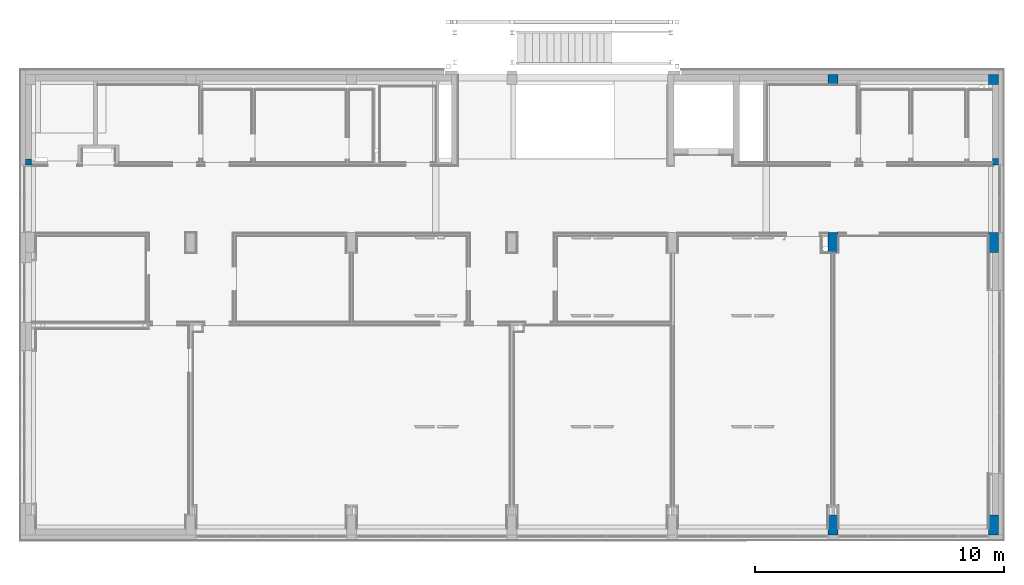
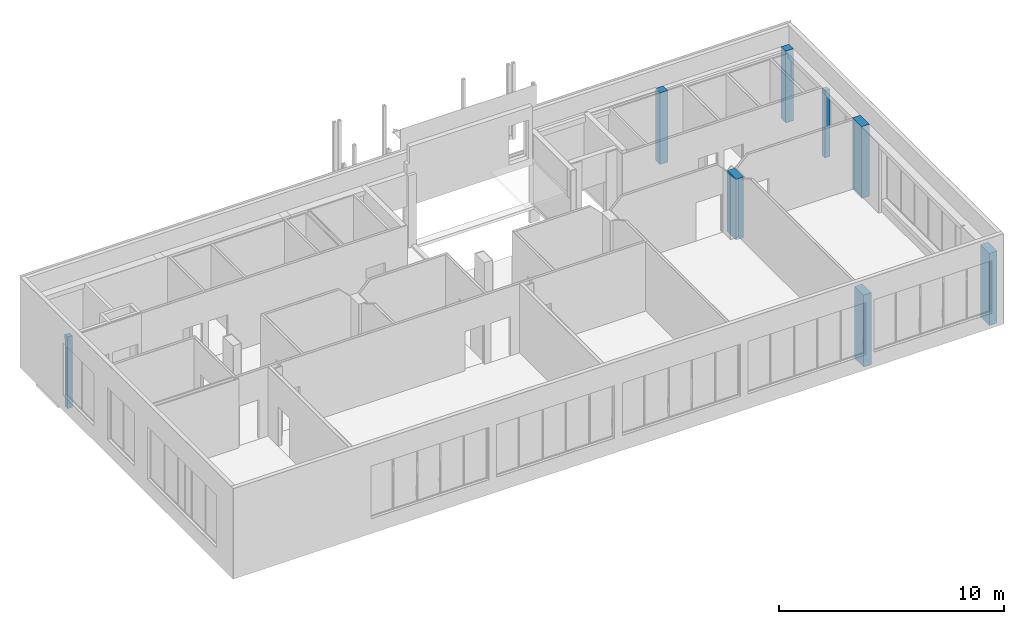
# One storey, part 5 of 29: 8 columns.
"""IFC2X3 building model written with IfcOpenShell, lengths in centimetres."""

import ifcopenshell
import ifcopenshell.guid

model = None  # the IFC model being written
_history = None  # IfcOwnerHistory: only IFC2X3 demands one
_inside = {}  # id of a spatial element -> (the spatial element, [elements in it])
_under = {}  # id of a project, library or spatial element -> (it, [spatial elements below it])
_declared = {}  # id of a project -> (the project, [libraries it declares])
_typed = {}  # id of a type object -> (the type object, [elements of that type])
_made_of = {}  # id of a material, layer set ... -> (it, [elements and type objects made of it])


def new_model(schema):
    """Start an empty IFC model of exactly this schema.

    Asked for "IFC4X3", IfcOpenShell would pick the latest addendum, in which some entities
    have other attributes; the version numbers below select the first issue.
    IFC2X3 requires an IfcOwnerHistory on every rooted entity: one is made here for all.
    """
    global model, _history
    if schema == "IFC4X3":
        model = ifcopenshell.file(schema_version=(4, 3, 0, 0))
    else:
        model = ifcopenshell.file(schema=schema)
    _inside.clear()
    _under.clear()
    _declared.clear()
    _typed.clear()
    _made_of.clear()
    _history = None
    if model.schema == "IFC2X3":
        org = make("IfcOrganization", Name="unknown")
        user = make(
            "IfcPersonAndOrganization",
            ThePerson=make("IfcPerson", FamilyName="unknown"),
            TheOrganization=org,
        )
        app = make(
            "IfcApplication",
            ApplicationDeveloper=org,
            Version="unknown",
            ApplicationFullName="unknown",
            ApplicationIdentifier="unknown",
        )
        _history = make(
            "IfcOwnerHistory",
            OwningUser=user,
            OwningApplication=app,
            ChangeAction="ADDED",
            CreationDate=0,
        )
    return model


def make(cls, **values):
    """One entity of the class cls with the attributes given. An attribute that is None is left unset."""
    return model.create_entity(
        cls, **{name: value for name, value in values.items() if value is not None}
    )


def entity(cls, *values):
    """Any entity or typed value of the class cls, its attributes in the order of the schema. None: left unset."""
    e = model.create_entity(cls)
    for i, value in enumerate(values):
        if value is not None:
            e[i] = value
    return e


def rooted(cls, **values):
    """An entity with a GlobalId (a new one), such as an element, a storey or a relation."""
    return make(cls, GlobalId=ifcopenshell.guid.new(), OwnerHistory=_history, **values)


def si_unit(unit_type, name, prefix=None):
    """IfcSIUnit, for example si_unit("LENGTHUNIT", "METRE", prefix="MILLI")."""
    return make("IfcSIUnit", UnitType=unit_type, Prefix=prefix, Name=name)


def converted_unit(unit_type, name, factor, base, dimensions=None, offset=None):
    """IfcConversionBasedUnit, such as the inch: factor (a typed value) times the base unit."""
    return make(
        "IfcConversionBasedUnit"
        if offset is None
        else "IfcConversionBasedUnitWithOffset",
        ConversionOffset=offset,
        Dimensions=None
        if dimensions is None
        else entity("IfcDimensionalExponents", *dimensions),
        UnitType=unit_type,
        Name=name,
        ConversionFactor=make(
            "IfcMeasureWithUnit", ValueComponent=factor, UnitComponent=base
        ),
    )


def derived_unit(unit_type, elements):
    """IfcDerivedUnit: a product of units, each with its exponent."""
    return make(
        "IfcDerivedUnit",
        Elements=[
            make("IfcDerivedUnitElement", Unit=unit, Exponent=power)
            for unit, power in elements
        ],
        UnitType=unit_type,
    )


def assignment(units):
    """IfcUnitAssignment: the units of a project."""
    return None if units is None else make("IfcUnitAssignment", Units=units)


def point(xyz):
    """IfcCartesianPoint."""
    return None if xyz is None else make("IfcCartesianPoint", Coordinates=xyz)


def direction(xyz):
    """IfcDirection."""
    return None if xyz is None else make("IfcDirection", DirectionRatios=xyz)


def frame(location, z_axis=None, x_axis=None):
    """IfcAxis2Placement3D, a coordinate frame: its origin and axes. An axis left out is left unset."""
    return make(
        "IfcAxis2Placement3D",
        Location=point(location),
        Axis=direction(z_axis),
        RefDirection=direction(x_axis),
    )


def frame_2d(location, x_axis=None):
    """IfcAxis2Placement2D, a coordinate frame in the plane: its origin and x axis."""
    return make(
        "IfcAxis2Placement2D", Location=point(location), RefDirection=direction(x_axis)
    )


def origin():
    """The frame at (0, 0, 0) with its axes left unset."""
    return frame((0.0, 0.0, 0.0))


def origin_2d_with_axis():
    """The frame at (0, 0) in the plane with the x axis (1, 0) written out."""
    return frame_2d((0.0, 0.0), x_axis=(1.0, 0.0))


def place(relative_to, where):
    """IfcLocalPlacement: puts the frame where relative to a parent placement (None: the world)."""
    return make(
        "IfcLocalPlacement", PlacementRelTo=relative_to, RelativePlacement=where
    )


def context(
    kind, dimensions, precision=None, world=None, true_north=None, identifier=None
):
    """IfcGeometricRepresentationContext, for example the 3D "Model" context."""
    return make(
        "IfcGeometricRepresentationContext",
        ContextIdentifier=identifier,
        ContextType=kind,
        CoordinateSpaceDimension=dimensions,
        Precision=precision,
        WorldCoordinateSystem=world,
        TrueNorth=true_north,
    )


def subcontext(parent, identifier, kind, view, scale=None):
    """IfcGeometricRepresentationSubContext, for example "Body" below "Model"."""
    return make(
        "IfcGeometricRepresentationSubContext",
        ContextIdentifier=identifier,
        ContextType=kind,
        ParentContext=parent,
        TargetScale=scale,
        TargetView=view,
    )


def project(units=None, contexts=None):
    """IfcProject with its units and contexts."""
    return rooted(
        "IfcProject",
        Name="project",
        RepresentationContexts=contexts,
        UnitsInContext=assignment(units),
    )


def spatial(cls, under=None, at=None, **own):
    """A site, building, storey or space (cls), placed at a placement, below another one or the project."""
    s = rooted(cls, ObjectPlacement=at, **own)
    if under is not None:
        _under.setdefault(under.id(), (under, []))[1].append(s)
    return s


def profile(cls, at=None, kind="AREA", **sizes):
    """A parametric profile (cls). Its sizes go by their IFC names, for example OverallWidth=200.0."""
    return make(cls, ProfileType=kind, Position=at, **sizes)


def rectangle(**sizes):
    """IfcRectangleProfileDef."""
    return profile("IfcRectangleProfileDef", **sizes)


def extrude(swept, where, along, depth):
    """IfcExtrudedAreaSolid: the profile swept, set in the frame where, extruded along a direction by depth."""
    return make(
        "IfcExtrudedAreaSolid",
        SweptArea=swept,
        Position=where,
        ExtrudedDirection=direction(along),
        Depth=depth,
    )


def faces_of(points, faces, orient=None, outer=None):
    """IfcFace entities. A face is a list of loops; a loop is a list of indices into points, from 0.

    orient and outer hold one flag for each loop. By default every Orientation is true, the
    first loop of a face is its IfcFaceOuterBound and the others are IfcFaceBound.
    """
    made = []
    for i, loops in enumerate(faces):
        bounds = []
        for j, loop in enumerate(loops):
            is_outer = j == 0 if outer is None else outer[i][j]
            bounds.append(
                make(
                    "IfcFaceOuterBound" if is_outer else "IfcFaceBound",
                    Bound=make("IfcPolyLoop", Polygon=[points[k] for k in loop]),
                    Orientation=True if orient is None else orient[i][j],
                )
            )
        made.append(make("IfcFace", Bounds=bounds))
    return made


def faceted_brep(points, faces, orient=None, outer=None, voids=None):
    """IfcFacetedBrep: a solid bounded by flat faces; with voids (closed shells), ...WithVoids."""
    shared = [point(p) for p in points]
    hull = make("IfcClosedShell", CfsFaces=faces_of(shared, faces, orient, outer))
    if voids is None:
        return make("IfcFacetedBrep", Outer=hull)
    return make(
        "IfcFacetedBrepWithVoids",
        Outer=hull,
        Voids=[
            make(cls, CfsFaces=faces_of(shared, fs, o, b)) for cls, fs, o, b in voids
        ],
    )


def shape(context_of_items, identifier, shape_type, items):
    """IfcShapeRepresentation: the items that make up one representation, for example the "Body"."""
    return make(
        "IfcShapeRepresentation",
        ContextOfItems=context_of_items,
        RepresentationIdentifier=identifier,
        RepresentationType=shape_type,
        Items=items,
    )


def source(mapping_origin, context_of_items, identifier, shape_type, items):
    """IfcRepresentationMap: a shape defined once, which mapped items show again and again."""
    return make(
        "IfcRepresentationMap",
        MappingOrigin=mapping_origin,
        MappedRepresentation=shape(context_of_items, identifier, shape_type, items),
    )


def transform(
    local_origin,
    x_axis=None,
    y_axis=None,
    z_axis=None,
    scale=None,
    scale2=None,
    scale3=None,
    uniform=True,
):
    """IfcCartesianTransformationOperator3D, or its non-uniform kind. x_axis, y_axis, z_axis: its Axis1, 2, 3."""
    if uniform:
        return make(
            "IfcCartesianTransformationOperator3D",
            Axis1=direction(x_axis),
            Axis2=direction(y_axis),
            LocalOrigin=point(local_origin),
            Scale=scale,
            Axis3=direction(z_axis),
        )
    return make(
        "IfcCartesianTransformationOperator3DnonUniform",
        Axis1=direction(x_axis),
        Axis2=direction(y_axis),
        LocalOrigin=point(local_origin),
        Scale=scale,
        Axis3=direction(z_axis),
        Scale2=scale2,
        Scale3=scale3,
    )


def mapped(mapping_source, mapping_target):
    """IfcMappedItem: shows the shape of a source again, moved by a transform."""
    return make(
        "IfcMappedItem", MappingSource=mapping_source, MappingTarget=mapping_target
    )


def material(Name=None, Category=None):
    """IfcMaterial."""
    return make("IfcMaterial", Name=Name, Category=Category)


def made_of(thing, what):
    """Note that an element or type object is made of a material, layer set ...; save() writes the relation."""
    if what is not None:
        _made_of.setdefault(what.id(), (what, []))[1].append(thing)
    return thing


def type_object(cls, material=None, **own):
    """A type object (cls), such as IfcWallType, which elements share."""
    return made_of(rooted(cls, **own), material)


def type_shapes(of_type, sources):
    """Give a type object the sources (RepresentationMaps) that its elements show as mapped items."""
    of_type.RepresentationMaps = sources


def element(
    cls,
    number,
    at=None,
    inside=None,
    cuts=None,
    type_object=None,
    material=None,
    context=None,
    identifier="Body",
    shape_type=None,
    held_by="IfcProductDefinitionShape",
    body=None,
    shapes=None,
    **own,
):
    """One element of the class cls, such as IfcWall. Its Tag is "e" and its number.

    at: its placement. inside: the storey or other place that contains it. cuts: it is an
    opening in that element (IfcRelVoidsElement). A single representation is given by context,
    identifier, shape_type and body (its items); several are given by shapes. held_by: the class
    of the entity that holds the representations. save() writes the other relations.
    """
    e = rooted(cls, Tag="e%d" % number, ObjectPlacement=at, **own)
    if body is not None:
        shapes = [shape(context, identifier, shape_type, body)]
    if shapes is not None:
        e.Representation = make(held_by, Representations=shapes)
    if inside is not None:
        _inside.setdefault(inside.id(), (inside, []))[1].append(e)
    if cuts is not None:
        rooted(
            "IfcRelVoidsElement", RelatingBuildingElement=cuts, RelatedOpeningElement=e
        )
    if type_object is not None:
        _typed.setdefault(type_object.id(), (type_object, []))[1].append(e)
    return made_of(e, material)


def aggregate(whole, parts):
    """IfcRelAggregates: a whole, such as a stair, and the parts it consists of."""
    return rooted("IfcRelAggregates", RelatingObject=whole, RelatedObjects=parts)


def save(model, path):
    """Write the relations noted so far, then the file.

    IfcRelAggregates (storeys below a building ...), IfcRelContainedInSpatialStructure (elements
    in a storey), IfcRelDefinesByType, IfcRelAssociatesMaterial and IfcRelDeclares: one each for
    every whole, place, type object, material and project.
    """
    for whole, parts in _under.values():
        aggregate(whole, parts)
    for where, things in _inside.values():
        rooted(
            "IfcRelContainedInSpatialStructure",
            RelatedElements=things,
            RelatingStructure=where,
        )
    for kind, things in _typed.values():
        rooted("IfcRelDefinesByType", RelatedObjects=things, RelatingType=kind)
    for what, things in _made_of.values():
        rooted("IfcRelAssociatesMaterial", RelatedObjects=things, RelatingMaterial=what)
    for by, libraries in _declared.values():
        rooted("IfcRelDeclares", RelatingContext=by, RelatedDefinitions=libraries)
    model.write(path)


model = new_model("IFC2X3")

# Units and contexts
model_context = context("Model", 3, precision=0.001, world=origin(), true_north=direction((6.12303176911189e-17, 1.0)))
body_context = subcontext(model_context, "Body", "Model", "MODEL_VIEW")
ifc_project = project(units=[si_unit("LENGTHUNIT", "METRE", prefix="CENTI"), si_unit("AREAUNIT", "SQUARE_METRE"), si_unit("VOLUMEUNIT", "CUBIC_METRE"), converted_unit("PLANEANGLEUNIT", "DEGREE", entity("IfcRatioMeasure", 0.0174532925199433), si_unit("PLANEANGLEUNIT", "RADIAN"), dimensions=[0, 0, 0, 0, 0, 0, 0]), si_unit("MASSUNIT", "GRAM", prefix="KILO"), derived_unit("MASSDENSITYUNIT", [(si_unit("MASSUNIT", "GRAM", prefix="KILO"), 1), (si_unit("LENGTHUNIT", "METRE"), -3)]), derived_unit("MOMENTOFINERTIAUNIT", [(si_unit("LENGTHUNIT", "METRE"), 4)]), si_unit("TIMEUNIT", "SECOND"), si_unit("FREQUENCYUNIT", "HERTZ"), si_unit("THERMODYNAMICTEMPERATUREUNIT", "DEGREE_CELSIUS"), derived_unit("THERMALTRANSMITTANCEUNIT", [(si_unit("MASSUNIT", "GRAM", prefix="KILO"), 1), (si_unit("THERMODYNAMICTEMPERATUREUNIT", "KELVIN"), -1), (si_unit("TIMEUNIT", "SECOND"), -3)]), derived_unit("VOLUMETRICFLOWRATEUNIT", [(si_unit("LENGTHUNIT", "METRE"), 3), (si_unit("TIMEUNIT", "SECOND"), -1)]), si_unit("ELECTRICCURRENTUNIT", "AMPERE"), si_unit("ELECTRICVOLTAGEUNIT", "VOLT"), si_unit("POWERUNIT", "WATT"), si_unit("FORCEUNIT", "NEWTON", prefix="KILO"), si_unit("ILLUMINANCEUNIT", "LUX"), si_unit("LUMINOUSFLUXUNIT", "LUMEN"), si_unit("LUMINOUSINTENSITYUNIT", "CANDELA"), derived_unit("USERDEFINED", [(si_unit("MASSUNIT", "GRAM", prefix="KILO"), -1), (si_unit("LENGTHUNIT", "METRE"), -2), (si_unit("TIMEUNIT", "SECOND"), 3), (si_unit("LUMINOUSFLUXUNIT", "LUMEN"), 1)]), derived_unit("LINEARVELOCITYUNIT", [(si_unit("LENGTHUNIT", "METRE"), 1), (si_unit("TIMEUNIT", "SECOND"), -1)]), si_unit("PRESSUREUNIT", "PASCAL"), derived_unit("USERDEFINED", [(si_unit("LENGTHUNIT", "METRE"), -2), (si_unit("MASSUNIT", "GRAM", prefix="KILO"), 1), (si_unit("TIMEUNIT", "SECOND"), -2)]), derived_unit("LINEARFORCEUNIT", [(si_unit("MASSUNIT", "GRAM", prefix="KILO"), 1), (si_unit("LENGTHUNIT", "METRE"), 1), (si_unit("TIMEUNIT", "SECOND"), -2), (si_unit("LENGTHUNIT", "METRE"), -1)]), derived_unit("PLANARFORCEUNIT", [(si_unit("MASSUNIT", "GRAM", prefix="KILO"), 1), (si_unit("LENGTHUNIT", "METRE"), 1), (si_unit("TIMEUNIT", "SECOND"), -2), (si_unit("LENGTHUNIT", "METRE"), -2)])], contexts=[model_context])

# Site, building, storey
site_placement = place(None, origin())
site = spatial("IfcSite", under=ifc_project, at=site_placement, Name="Default", CompositionType="ELEMENT")
building_placement = place(site_placement, origin())
building = spatial("IfcBuilding", under=site, at=building_placement, CompositionType="ELEMENT")
storey_placement = place(building_placement, frame((0.0, 0.0, 545.0)))
storey = spatial("IfcBuildingStorey", under=building, at=storey_placement, Name="Poziom 1K +5,45", CompositionType="ELEMENT", Elevation=544.999999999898)

# Columns
ifc_material = material(Name="_Beton, C25/30")
column_type_1 = type_object("IfcColumnType", Name="Beton-słup prostokątny:Słup 40 x 80 cm", PredefinedType="COLUMN", material=ifc_material)
shared_shape_1 = source(origin(), body_context, "Body", "SweptSolid", [
    extrude(rectangle(XDim=80.0, YDim=40.0, at=origin_2d_with_axis()), frame((310.734890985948, 1430.12745208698, 545.0), z_axis=(0.0, 0.0, 1.0), x_axis=(0.0, -1.0, 0.0)), (0.0, 0.0, 1.0), 330.000000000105),
])
type_shapes(column_type_1, [shared_shape_1])
column_1_placement = place(storey_placement, frame((0.0, 0.0, -545.0)))
element("IfcColumn", 1, at=column_1_placement, inside=storey, type_object=column_type_1, Name="Beton-słup prostokątny:Słup 40 x 80 cm", ObjectType="Beton-słup prostokątny:Słup 40 x 80 cm", context=body_context, shape_type="MappedRepresentation", body=[
    mapped(shared_shape_1, transform((0.0, 0.0, 0.0), scale=1.0)),
])
column_type_2 = type_object("IfcColumnType", Name="Beton-słup prostokątny:Słup 40 x 80 cm", PredefinedType="COLUMN", material=ifc_material)
shared_shape_2 = source(origin(), body_context, "Body", "SweptSolid", [
    extrude(rectangle(XDim=80.0, YDim=40.0, at=origin_2d_with_axis()), frame((955.734891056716, 1430.12745208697, 545.0), z_axis=(0.0, 0.0, 1.0), x_axis=(0.0, -1.0, 0.0)), (0.0, 0.0, 1.0), 390.000000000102),
])
type_shapes(column_type_2, [shared_shape_2])
column_2_placement = place(storey_placement, frame((0.0, 0.0, -545.0)))
element("IfcColumn", 2, at=column_2_placement, inside=storey, type_object=column_type_2, Name="Beton-słup prostokątny:Słup 40 x 80 cm", ObjectType="Beton-słup prostokątny:Słup 40 x 80 cm", context=body_context, shape_type="MappedRepresentation", body=[
    mapped(shared_shape_2, transform((0.0, 0.0, 0.0), scale=1.0)),
])
column_type_3 = type_object("IfcColumnType", Name="Beton-słup prostokątny:Słup żelbetowy 40x40cm", PredefinedType="COLUMN", material=ifc_material)
shared_shape_3 = source(origin(), body_context, "Body", "SweptSolid", [
    extrude(rectangle(XDim=40.0, YDim=40.0, at=origin_2d_with_axis()), frame((310.734891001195, 2085.1274520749, 545.0), z_axis=(0.0, 0.0, 1.0), x_axis=(0.0, -1.0, 0.0)), (0.0, 0.0, 1.0), 390.000000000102),
])
type_shapes(column_type_3, [shared_shape_3])
column_3_placement = place(storey_placement, frame((0.0, 0.0, -545.0)))
element("IfcColumn", 3, at=column_3_placement, inside=storey, type_object=column_type_3, Name="Beton-słup prostokątny:Słup żelbetowy 40x40cm", ObjectType="Beton-słup prostokątny:Słup żelbetowy 40x40cm", context=body_context, shape_type="MappedRepresentation", body=[
    mapped(shared_shape_3, transform((0.0, 0.0, 0.0), scale=1.0)),
])
column_type_4 = type_object("IfcColumnType", Name="Beton-słup prostokątny:Słup żelbetowy 40x40cm", PredefinedType="COLUMN", material=ifc_material)
shared_shape_4 = source(origin(), body_context, "Body", "SweptSolid", [
    extrude(rectangle(XDim=40.0, YDim=40.0, at=frame_2d((2.16715534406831e-13, 0.0), x_axis=(1.0, 0.0))), frame((955.734894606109, 2085.1274520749, 545.0), z_axis=(0.0, 0.0, 1.0), x_axis=(0.0, -1.0, 0.0)), (0.0, 0.0, 1.0), 390.000000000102),
])
type_shapes(column_type_4, [shared_shape_4])
column_4_placement = place(storey_placement, frame((0.0, 0.0, -545.0)))
element("IfcColumn", 4, at=column_4_placement, inside=storey, type_object=column_type_4, Name="Beton-słup prostokątny:Słup żelbetowy 40x40cm", ObjectType="Beton-słup prostokątny:Słup żelbetowy 40x40cm", context=body_context, shape_type="MappedRepresentation", body=[
    mapped(shared_shape_4, transform((0.0, 0.0, 0.0), scale=1.0)),
])
column_type_5 = type_object("IfcColumnType", Name="Beton-słup prostokątny:Słup 40 x 80 cm", PredefinedType="COLUMN", material=ifc_material)
shared_shape_5 = source(origin(), body_context, "Body", "SweptSolid", [
    extrude(rectangle(XDim=80.0, YDim=40.0, at=origin_2d_with_axis()), frame((955.734891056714, 295.12765760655, 545.0), z_axis=(0.0, 0.0, 1.0), x_axis=(0.0, -1.0, 0.0)), (0.0, 0.0, 1.0), 390.000000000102),
])
type_shapes(column_type_5, [shared_shape_5])
column_5_placement = place(storey_placement, frame((0.0, 0.0, -545.0)))
element("IfcColumn", 5, at=column_5_placement, inside=storey, type_object=column_type_5, Name="Beton-słup prostokątny:Słup 40 x 80 cm", ObjectType="Beton-słup prostokątny:Słup 40 x 80 cm", context=body_context, shape_type="MappedRepresentation", body=[
    mapped(shared_shape_5, transform((0.0, 0.0, 0.0), scale=1.0)),
])
column_type_6 = type_object("IfcColumnType", Name="Beton-słup prostokątny:Słup 40 x 80 cm", PredefinedType="COLUMN", material=ifc_material)
shared_shape_6 = source(origin(), body_context, "Body", "SweptSolid", [
    extrude(rectangle(XDim=80.0, YDim=40.0, at=origin_2d_with_axis()), frame((310.734893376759, 295.127657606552, 545.0), z_axis=(0.0, 0.0, 1.0), x_axis=(0.0, -1.0, 0.0)), (0.0, 0.0, 1.0), 390.000000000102),
])
type_shapes(column_type_6, [shared_shape_6])
column_6_placement = place(storey_placement, frame((0.0, 0.0, -545.0)))
element("IfcColumn", 6, at=column_6_placement, inside=storey, type_object=column_type_6, Name="Beton-słup prostokątny:Słup 40 x 80 cm", ObjectType="Beton-słup prostokątny:Słup 40 x 80 cm", context=body_context, shape_type="MappedRepresentation", body=[
    mapped(shared_shape_6, transform((0.0, 0.0, 0.0), scale=1.0)),
])
column_type_7 = type_object("IfcColumnType", Name="Beton-słup prostokątny:Słup 25 x 25 cm", PredefinedType="COLUMN", material=ifc_material)
shared_shape_7 = source(origin(), body_context, "Body", "SweptSolid", [
    extrude(rectangle(XDim=24.9999999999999, YDim=24.9999999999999, at=origin_2d_with_axis()), frame((963.234879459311, 1755.62745200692, 545.0), z_axis=(0.0, 0.0, 1.0), x_axis=(0.0, -1.0, 0.0)), (0.0, 0.0, 1.0), 364.99999999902),
])
type_shapes(column_type_7, [shared_shape_7])
column_7_placement = place(storey_placement, frame((0.0, 0.0, -545.0)))
element("IfcColumn", 7, at=column_7_placement, inside=storey, type_object=column_type_7, Name="Beton-słup prostokątny:Słup 25 x 25 cm", ObjectType="Beton-słup prostokątny:Słup 25 x 25 cm", context=body_context, shape_type="MappedRepresentation", body=[
    mapped(shared_shape_7, transform((0.0, 0.0, 0.0), scale=1.0)),
])
column_type_8 = type_object("IfcColumnType", Name="Beton-słup prostokątny:Słup 25 x 25 cm", PredefinedType="COLUMN", material=ifc_material)
shared_shape_8 = source(origin(), body_context, "Body", "Brep", [
    faceted_brep([(25.0, 0.0, 0.0), (0.0, 0.0, 0.0), (0.0, 24.0, 0.0), (25.0, 24.0, 0.0), (25.0, 14.9999995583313, 0.0), (0.0, 25.0, 390.0), (25.0, 25.0, 390.0), (25.0, 25.0, 365.0), (0.0, 25.0, 365.0), (0.0, 0.0, 390.0), (0.0, 24.0, 365.0), (0.0, 0.0, 365.0), (25.0, 0.0, 365.0), (25.0, 0.0, 390.0), (25.0, 12.0000000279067, 390.0), (25.0, 24.0, 365.0)], [[[0, 1, 2, 3, 4]], [[5, 6, 7, 8]], [[9, 5, 8, 10, 2, 1, 11]], [[1, 0, 12, 13, 9, 11]], [[6, 14, 13, 12, 0, 4, 3, 15, 7]], [[6, 5, 9, 13, 14]], [[10, 15, 3, 2]], [[15, 10, 8, 7]]]),
])
type_shapes(column_type_8, [shared_shape_8])
column_8_placement = place(storey_placement, frame((-2934.26510657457, 1743.1274520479, 0.0)))
element("IfcColumn", 8, at=column_8_placement, inside=storey, type_object=column_type_8, material=ifc_material, Name="Beton-słup prostokątny:Słup 25 x 25 cm", ObjectType="Beton-słup prostokątny:Słup 25 x 25 cm", context=body_context, shape_type="MappedRepresentation", body=[
    mapped(shared_shape_8, transform((0.0, 0.0, 0.0), scale=1.0)),
])

save(model, "model.ifc")
